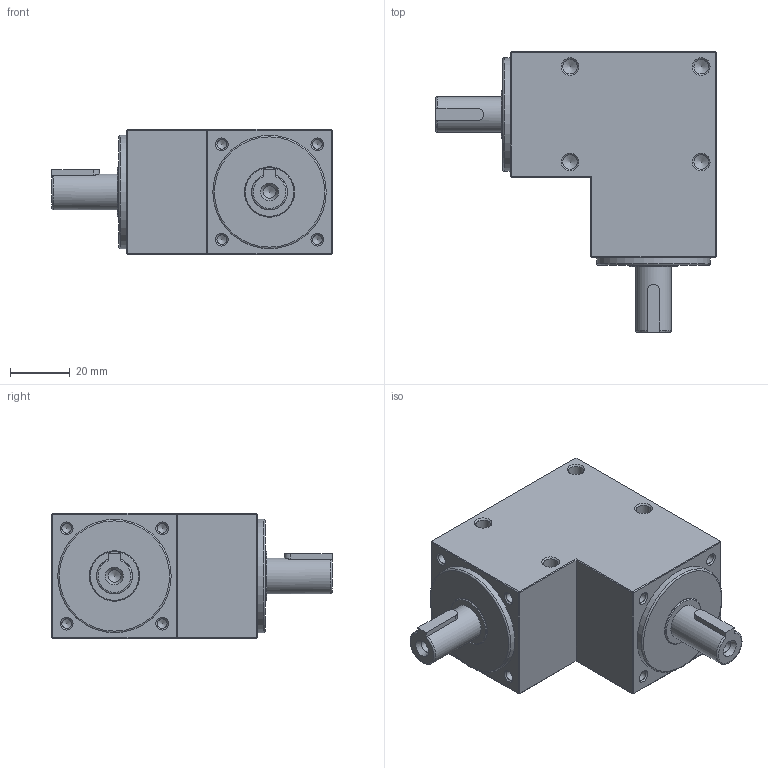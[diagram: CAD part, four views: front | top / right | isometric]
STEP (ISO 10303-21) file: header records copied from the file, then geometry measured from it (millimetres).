
FILE_DESCRIPTION((''),'2;1');
FILE_NAME('D:\유성\SBT 베벨기어박스\최종도면모음\3D\SBT042\SBT042LS001K.stp','2014-05-16T18:29:44',('nagyu'),(''),'Autodesk Inventor 2013','Autodesk Inventor 2013','');
FILE_SCHEMA(('AUTOMOTIVE_DESIGN { 1 0 10303 214 1 1 1 1 }'));
Length unit declared in the file: millimetre
Products named in the file (1): SBT042LS001K_Shrinkwrap_1
Bounding box: 94 x 94 x 42 mm (x, y, z)
Volume: 178368.9 mm3; surface area: 23604.8 mm2
Topology: 1 solids, 1 shells, 115 faces, 250 edges, 143 vertices
Faces by surface type: plane 47, cone 38, cylinder 26, torus 4
Full cylindrical faces by diameter (mm): 3.242 x8, 4.134 x2, 4.917 x8, 12 x2, 16.9 x2, 38 x2
Entity records: 2641 total; most frequent: CARTESIAN_POINT 479, DIRECTION 465, ORIENTED_EDGE 334, AXIS2_PLACEMENT_3D 190, EDGE_LOOP 185, EDGE_CURVE 167, VERTEX_POINT 124, FACE_OUTER_BOUND 115
